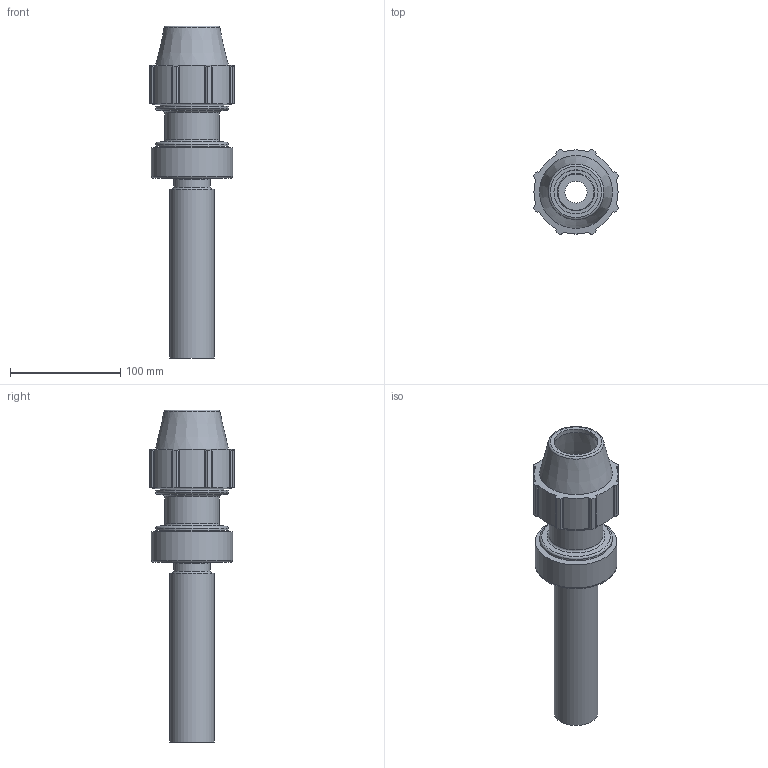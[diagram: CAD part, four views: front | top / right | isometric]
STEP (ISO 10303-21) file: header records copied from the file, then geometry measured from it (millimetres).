
FILE_DESCRIPTION(/* description */ ('Plasson Adjustable Elbow 40 x 40 mm'),/* implementation_level */ '2;1');
FILE_NAME(/* name */ 'C:\Dropbox\KIMPROJECTS-Inventor 2019\99-16-3568-Processing\Mechanical Fittings\07470\074706040.stp',/* time_stamp */ '2023-03-23T11:35:19+02:00',/* author */ ('comp2'),/* organization */ (''),/* preprocessor_version */ 'ST-DEVELOPER v17.2',/* originating_system */ 'Autodesk Inventor 2019',/* authorisation */ '');
FILE_SCHEMA (('AUTOMOTIVE_DESIGN { 1 0 10303 214 3 1 1 }'));
Length unit declared in the file: millimetre
Products named in the file (1): 074706040
Bounding box: 77.16 x 77.16 x 301 mm (x, y, z)
Volume: 402099.3 mm3; surface area: 122821.7 mm2
Topology: 4 solids, 4 shells, 98 faces, 290 edges, 208 vertices
Faces by surface type: plane 48, cylinder 33, cone 9, torus 7, sphere 1
Full cylindrical faces by diameter (mm): 20 x1, 32.8 x2, 34 x1, 40 x4, 44 x1, 49 x1, 58 x4, 66 x2, 74 x1
Entity records: 3456 total; most frequent: CARTESIAN_POINT 661, DIRECTION 608, ORIENTED_EDGE 580, EDGE_CURVE 290, AXIS2_PLACEMENT_3D 251, VERTEX_POINT 208, CIRCLE 152, EDGE_LOOP 114
